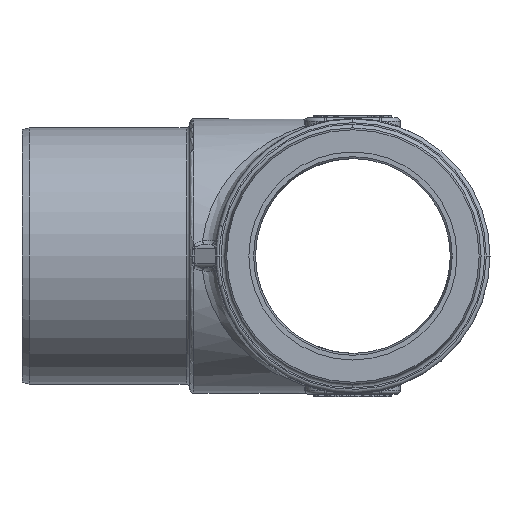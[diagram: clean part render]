
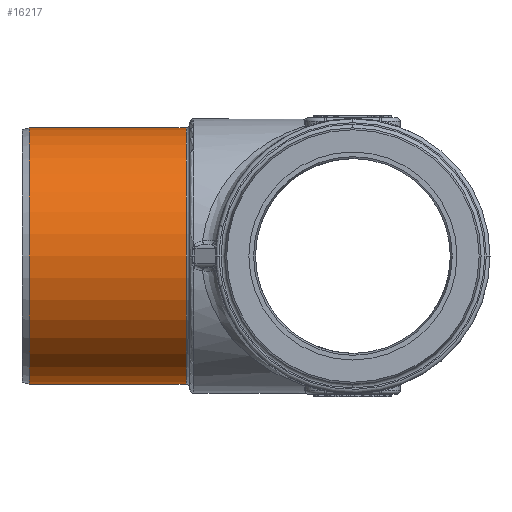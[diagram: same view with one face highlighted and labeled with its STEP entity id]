
A CAD part, left-side view. The second image highlights one B-rep face of the part: STEP entity #16217.
In plain terms, the highlighted cylindrical face has radius 27.1 mm (diameter 54.2 mm), a partial arc.
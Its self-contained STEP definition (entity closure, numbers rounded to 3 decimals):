
#251 = CIRCLE ( 'NONE', #21834, 27.1 ) ;
#274 = LINE ( 'NONE', #877, #277 ) ;
#277 = VECTOR ( 'NONE', #866, 1000. ) ;
#278 = LINE ( 'NONE', #862, #280 ) ;
#280 = VECTOR ( 'NONE', #876, 1000. ) ;
#803 = CARTESIAN_POINT ( 'NONE',  ( 0., 35.3, 0. ) ) ;
#804 = DIRECTION ( 'NONE',  ( 0., 1., 0. ) ) ;
#805 = DIRECTION ( 'NONE',  ( 0., 0., 1. ) ) ;
#862 = CARTESIAN_POINT ( 'NONE',  ( 0., 70., -27.1 ) ) ;
#866 = DIRECTION ( 'NONE',  ( 0., -1., 0. ) ) ;
#876 = DIRECTION ( 'NONE',  ( 0., -1., 0. ) ) ;
#877 = CARTESIAN_POINT ( 'NONE',  ( 0., 70., 27.1 ) ) ;
#2436 = AXIS2_PLACEMENT_3D ( 'NONE', #4168, #4171, #4166 ) ;
#3318 = CYLINDRICAL_SURFACE ( 'NONE', #2436, 27.1 ) ;
#3326 = FACE_OUTER_BOUND ( 'NONE', #20580, .T. ) ;
#4166 = DIRECTION ( 'NONE',  ( 0., 0., -1. ) ) ;
#4168 = CARTESIAN_POINT ( 'NONE',  ( 0., 70., 0. ) ) ;
#4171 = DIRECTION ( 'NONE',  ( 0., -1., 0. ) ) ;
#7485 = EDGE_CURVE ( 'NONE', #19448, #19466, #251, .T. ) ;
#7506 = EDGE_CURVE ( 'NONE', #19474, #19466, #274, .T. ) ;
#7508 = EDGE_CURVE ( 'NONE', #19483, #19448, #278, .T. ) ;
#8172 = AXIS2_PLACEMENT_3D ( 'NONE', #13713, #13714, #13715 ) ;
#8889 = CARTESIAN_POINT ( 'NONE',  ( 0., 35.3, -27.1 ) ) ;
#8900 = CARTESIAN_POINT ( 'NONE',  ( 0., 35.3, 27.1 ) ) ;
#8905 = CARTESIAN_POINT ( 'NONE',  ( 0., 68.5, 27.1 ) ) ;
#8911 = CARTESIAN_POINT ( 'NONE',  ( 0., 68.5, -27.1 ) ) ;
#13713 = CARTESIAN_POINT ( 'NONE',  ( 0., 68.5, 0. ) ) ;
#13714 = DIRECTION ( 'NONE',  ( 0., -1., 0. ) ) ;
#13715 = DIRECTION ( 'NONE',  ( 0., 0., 1. ) ) ;
#14144 = CIRCLE ( 'NONE', #8172, 27.1 ) ;
#16217 = ADVANCED_FACE ( 'NONE', ( #3326 ), #3318, .T. ) ;
#18104 = ORIENTED_EDGE ( 'NONE', *, *, #20944, .T. ) ;
#18161 = ORIENTED_EDGE ( 'NONE', *, *, #7485, .T. ) ;
#18196 = ORIENTED_EDGE ( 'NONE', *, *, #7506, .F. ) ;
#18208 = ORIENTED_EDGE ( 'NONE', *, *, #7508, .T. ) ;
#19448 = VERTEX_POINT ( 'NONE', #8889 ) ;
#19466 = VERTEX_POINT ( 'NONE', #8900 ) ;
#19474 = VERTEX_POINT ( 'NONE', #8905 ) ;
#19483 = VERTEX_POINT ( 'NONE', #8911 ) ;
#20580 = EDGE_LOOP ( 'NONE', ( #18196, #18104, #18208, #18161 ) ) ;
#20944 = EDGE_CURVE ( 'NONE', #19474, #19483, #14144, .T. ) ;
#21834 = AXIS2_PLACEMENT_3D ( 'NONE', #803, #804, #805 ) ;
